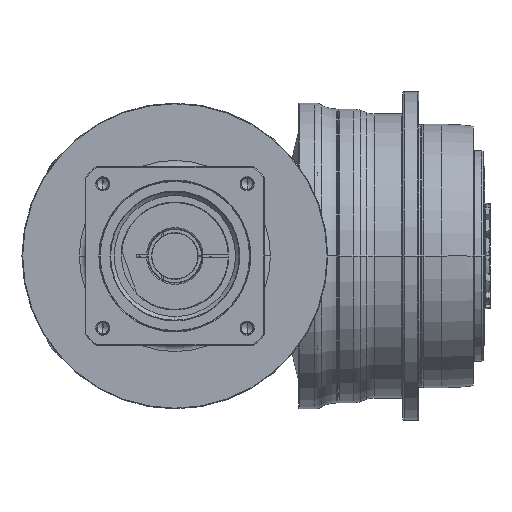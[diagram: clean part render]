
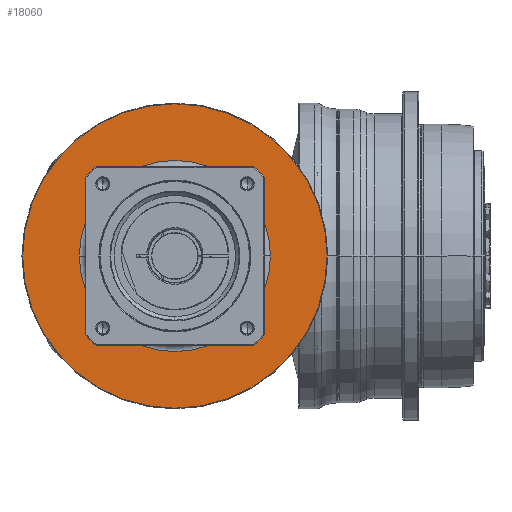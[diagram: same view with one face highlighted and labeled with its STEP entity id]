
A CAD part, front view. The second image highlights one B-rep face of the part: STEP entity #18060.
In plain terms, the highlighted planar face has unit normal (0, -1, 0) as drawn and (1, 0, 0) by its records, which use the part's own axes.
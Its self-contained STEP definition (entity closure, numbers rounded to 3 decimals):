
#17539=CARTESIAN_POINT('',(-7.5,0.,0.));
#17540=DIRECTION('',(-1.,0.,0.));
#17541=DIRECTION('',(0.,-1.,0.));
#17542=AXIS2_PLACEMENT_3D('',#17539,#17540,#17541);
#17544=CARTESIAN_POINT('',(-7.5,0.,0.));
#17545=DIRECTION('',(-1.,0.,0.));
#17546=DIRECTION('',(0.,1.,0.));
#17547=AXIS2_PLACEMENT_3D('',#17544,#17545,#17546);
#17549=CARTESIAN_POINT('',(-7.5,0.,0.));
#17550=DIRECTION('',(-1.,0.,0.));
#17551=DIRECTION('',(0.,-1.,0.));
#17552=AXIS2_PLACEMENT_3D('',#17549,#17550,#17551);
#17554=CARTESIAN_POINT('',(-7.5,0.,0.));
#17555=DIRECTION('',(-1.,0.,0.));
#17556=DIRECTION('',(0.,1.,0.));
#17557=AXIS2_PLACEMENT_3D('',#17554,#17555,#17556);
#17623=CARTESIAN_POINT('',(-7.5,-115.5,0.));
#17624=CARTESIAN_POINT('',(-7.5,115.5,0.));
#17625=VERTEX_POINT('',#17623);
#17626=VERTEX_POINT('',#17624);
#17647=CARTESIAN_POINT('',(-7.5,-72.5,0.));
#17648=CARTESIAN_POINT('',(-7.5,72.5,0.));
#17649=VERTEX_POINT('',#17647);
#17650=VERTEX_POINT('',#17648);
#18045=CARTESIAN_POINT('',(-7.5,0.,0.));
#18046=DIRECTION('',(1.,0.,0.));
#18047=DIRECTION('',(0.,-1.,0.));
#18048=AXIS2_PLACEMENT_3D('',#18045,#18046,#18047);
#18049=PLANE('',#18048);
#18050=ORIENTED_EDGE('',*,*,#17986,.T.);
#18051=ORIENTED_EDGE('',*,*,#18001,.T.);
#18052=EDGE_LOOP('',(#18050,#18051));
#18053=FACE_OUTER_BOUND('',#18052,.F.);
#18055=ORIENTED_EDGE('',*,*,#18054,.F.);
#18057=ORIENTED_EDGE('',*,*,#18056,.F.);
#18058=EDGE_LOOP('',(#18055,#18057));
#18059=FACE_BOUND('',#18058,.F.);
#18060=ADVANCED_FACE('',(#18053,#18059),#18049,.T.);
#17543=CIRCLE('',#17542,72.5);
#17548=CIRCLE('',#17547,72.5);
#17553=CIRCLE('',#17552,115.5);
#17558=CIRCLE('',#17557,115.5);
#17986=EDGE_CURVE('',#17625,#17626,#17553,.T.);
#18001=EDGE_CURVE('',#17626,#17625,#17558,.T.);
#18054=EDGE_CURVE('',#17649,#17650,#17543,.T.);
#18056=EDGE_CURVE('',#17650,#17649,#17548,.T.);
